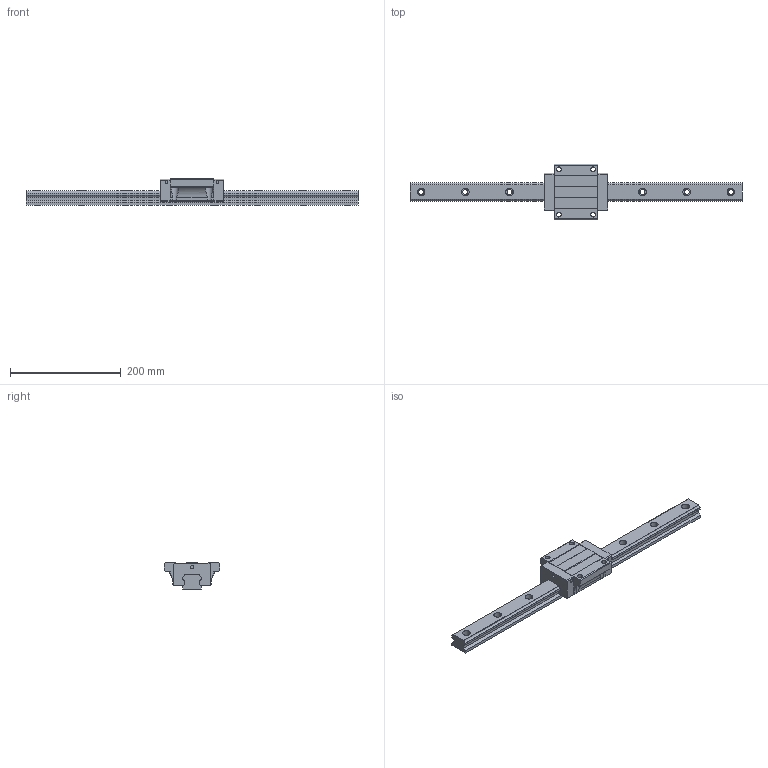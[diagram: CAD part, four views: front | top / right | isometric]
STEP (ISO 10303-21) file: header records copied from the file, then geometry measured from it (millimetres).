
FILE_DESCRIPTION (( 'STEP AP203' ), '1' );
FILE_NAME ('TRH35FN-SU.STEP', '2024-06-26T05:22:07', ( '' ), ( '' ), 'SwSTEP 2.0', 'SolidWorks 2022', '' );
FILE_SCHEMA (( 'CONFIG_CONTROL_DESIGN' ));
Length unit declared in the file: millimetre
Products named in the file (1): TRH35FN-SU
Bounding box: 600 x 100 x 48 mm (x, y, z)
Volume: 728017.8 mm3; surface area: 124142.4 mm2
Topology: 2 solids, 2 shells, 212 faces, 580 edges, 386 vertices
Faces by surface type: cylinder 112, plane 100
Entity records: 7469 total; most frequent: CARTESIAN_POINT 1821, DIRECTION 1174, ORIENTED_EDGE 1160, EDGE_CURVE 580, AXIS2_PLACEMENT_3D 409, VERTEX_POINT 386, LINE 356, VECTOR 356
